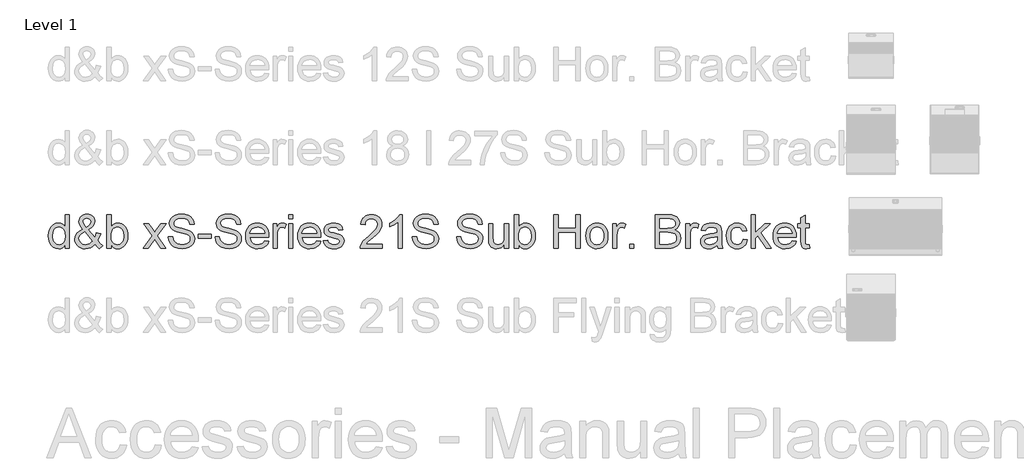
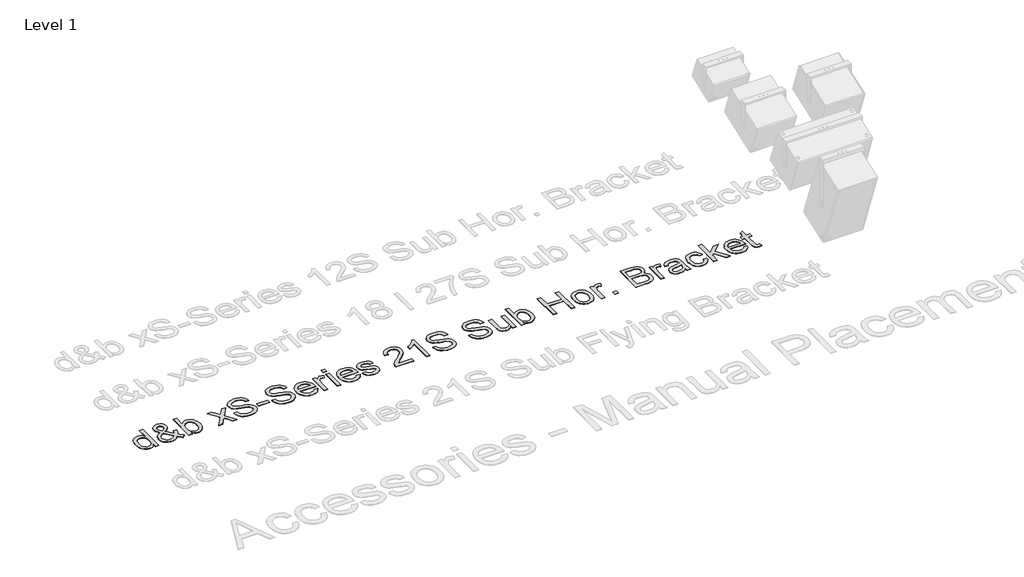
# One storey, part 14 of 55: 1 proxy.
"""IFC4 building model written with IfcOpenShell, lengths in millimetres."""

from ifc_helpers import new_model, si_unit, origin, origin_with_axes, place, context, project, spatial, polyline, outline, extrude, element, save

model = new_model("IFC4")

# Units and contexts
model_context = context("Model", 3, world=origin())
ifc_project = project(units=[si_unit("LENGTHUNIT", "METRE", prefix="MILLI")], contexts=[model_context])

# Site, building, storey
site = spatial("IfcSite", under=ifc_project)
building = spatial("IfcBuilding", under=site)
storey = spatial("IfcBuildingStorey", under=building, Name="Level 1", Elevation=0.0)

# Proxy
placement = place(None, origin())
element("IfcBuildingElementProxy", 1, Name="400mm Arial", ObjectType="400mm Arial", at=placement, inside=storey, context=model_context, shape_type="SweptSolid", body=[
    extrude(outline(polyline([(-20879.8211974, -22648.6945164), (-20879.8211974, -22601.3113154), (-20894.8491769, -22624.7883181), (-20913.0532043, -22641.5576057), (-20934.4332796, -22651.6191783), (-20958.9894028, -22654.9730358), (-20991.4611202, -22650.1169935), (-21021.1859854, -22635.5488665), (-21046.3491139, -22612.2864616), (-21065.1356211, -22581.3475858), (-21076.8342686, -22543.9830379), (-21080.7338177, -22501.4436165), (-21077.1408369, -22459.4314926), (-21066.3618945, -22421.4905962), (-21048.4092531, -22389.7791682), (-21023.2951755, -22366.4554497), (-20992.9203855, -22352.1080519), (-20959.1856065, -22347.325586), (-20934.6110892, -22350.7468885), (-20912.8815261, -22361.0107962), (-20894.4629008, -22376.7438829), (-20879.8211974, -22396.5727224), (-20879.8211974, -22246.8692758), (-20829.5930424, -22246.8692758), (-20829.5930424, -22648.6945164), (-20879.8211974, -22648.6945164)]), holes=[polyline([(-21030.5056627, -22501.2474128), (-21029.089317, -22525.6042665), (-21024.8402799, -22546.6808392), (-21017.7585515, -22564.4771307), (-21007.8441318, -22578.9931411), (-20983.1469871, -22598.3069458), (-20969.2717046, -22603.135397), (-20954.3786151, -22604.7448807), (-20939.415015, -22603.2089734), (-20925.6225058, -22598.6012514), (-20901.5507606, -22580.1703635), (-20892.0440767, -22566.2613584), (-20885.2535882, -22549.1088603), (-20879.8211974, -22505.0733855), (-20885.3516901, -22456.9298951), (-20892.2648059, -22438.3947739), (-20901.9431681, -22423.5507354), (-20913.6448812, -22412.1770504), (-20926.6280499, -22404.0529896), (-20940.8926743, -22399.1785532), (-20956.4387543, -22397.5537411), (-20971.6261493, -22399.1141738), (-20985.5014319, -22403.7954722), (-20998.064602, -22411.5976362), (-21009.3156597, -22422.5206658), (-21018.586286, -22436.8036843), (-21025.2081619, -22454.6858149), (-21030.5056627, -22501.2474128)])]), origin_with_axes(), (0.0, 0.0, 1.0), 5.0),
    extrude(outline(polyline([(-20523.809528, -22599.0549725), (-20549.3405384, -22623.5191252), (-20577.0788409, -22640.99352), (-20607.0734862, -22651.4781569), (-20639.3735254, -22654.9730358), (-20668.6814577, -22652.3855991), (-20694.8010793, -22644.623289), (-20717.7323904, -22631.6861055), (-20737.4753908, -22613.5740486), (-20750.308341, -22596.2038871), (-20759.4747341, -22577.8404442), (-20764.9745699, -22558.4837198), (-20766.8078485, -22538.1337141), (-20760.9094739, -22502.9396699), (-20743.2143499, -22471.3263438), (-20713.796053, -22443.3182613), (-20672.7281596, -22418.9399477), (-20694.6416638, -22390.5885086), (-20707.7995765, -22368.1231814), (-20714.3846642, -22348.9442668), (-20716.5796934, -22330.4520651), (-20714.8506481, -22312.8979626), (-20709.6635119, -22296.5333452), (-20701.018285, -22281.3582129), (-20688.9149674, -22267.3725657), (-20674.1935562, -22255.6555241), (-20657.6940487, -22247.2862088), (-20639.4164449, -22242.2646195), (-20619.3607448, -22240.5907564), (-20600.212487, -22242.1910431), (-20582.8913764, -22246.9919032), (-20567.397413, -22254.9933366), (-20553.7305969, -22266.1953433), (-20542.5715097, -22279.6414302), (-20534.6007332, -22294.3751041), (-20529.8182672, -22310.396365), (-20528.2241119, -22327.7052129), (-20532.9452642, -22355.68877), (-20547.108721, -22381.563137), (-20570.7144823, -22405.3283139), (-20603.7625482, -22426.9843007), (-20531.069066, -22517.5323224), (-20518.6837055, -22491.6579554), (-20509.3885538, -22461.9085647), (-20459.1603987, -22472.7978718), (-20474.6114425, -22519.3226815), (-20494.6732739, -22555.4977443), (-20466.1256311, -22588.8033276), (-20434.0463211, -22616.3209009), (-20471.7174374, -22654.9730358), (-20497.3465498, -22631.52669), (-20523.809528, -22599.0549725)]), holes=[polyline([(-20557.4584678, -22562.8553842), (-20647.1235727, -22450.9211558), (-20681.3733865, -22472.7733463), (-20702.305872, -22493.0068561), (-20713.0112381, -22512.3329235), (-20716.5796934, -22531.4627873), (-20711.6991256, -22555.1543878), (-20697.0574222, -22579.7289051), (-20686.2784798, -22590.6733944), (-20673.4639236, -22598.4908868), (-20658.6137537, -22603.1813823), (-20641.7279702, -22604.7448807), (-20619.0051256, -22601.8263502), (-20595.5710425, -22593.0707588), (-20574.1480476, -22579.6798541), (-20557.4584678, -22562.8553842)]), polyline([(-20629.1709314, -22395.2973981), (-20602.9041569, -22378.6323438), (-20587.8700461, -22364.1500559), (-20580.8067117, -22350.0601755), (-20578.452267, -22334.5723435), (-20581.5547385, -22317.0243723), (-20590.862153, -22303.0325938), (-20604.829406, -22293.8723321), (-20621.9113933, -22290.8189115), (-20639.3612626, -22293.8478066), (-20653.6473468, -22302.9344919), (-20663.1754905, -22316.3867102), (-20666.3515384, -22332.5122043), (-20662.0350563, -22350.9063041), (-20648.9875082, -22371.360543), (-20629.1709314, -22395.2973981)])]), origin_with_axes(), (0.0, 0.0, 1.0), 5.0),
    extrude(outline(polyline([(-20333.590011, -22648.6945164), (-20383.8181661, -22648.6945164), (-20383.8181661, -22246.8692758), (-20333.590011, -22246.8692758), (-20333.590011, -22395.8860093), (-20317.0721094, -22374.6408241), (-20298.4204923, -22359.4656918), (-20277.6351595, -22350.3606124), (-20254.7161112, -22347.325586), (-20228.8417442, -22350.0601755), (-20204.3898543, -22358.263944), (-20182.758393, -22371.4218567), (-20165.3453119, -22389.0188788), (-20151.6968898, -22410.883332), (-20141.3594058, -22436.8435381), (-20134.8478945, -22465.8203766), (-20132.6773907, -22496.734727), (-20134.9245365, -22532.4070178), (-20141.6659741, -22563.7873519), (-20152.9017034, -22590.8757295), (-20168.6317244, -22613.6721505), (-20187.5132678, -22631.7412878), (-20208.2035643, -22644.6478145), (-20230.702614, -22652.3917305), (-20255.0104168, -22654.9730358), (-20278.6836232, -22651.6437038), (-20299.671291, -22641.6557076), (-20317.9734203, -22625.0090473), (-20333.590011, -22601.7037229), (-20333.590011, -22648.6945164)]), holes=[polyline([(-20333.590011, -22499.0891717), (-20330.1564457, -22540.9786682), (-20319.8557498, -22569.3301073), (-20307.6849872, -22584.8240707), (-20293.5399244, -22595.8911874), (-20277.4205617, -22602.5314574), (-20259.3268989, -22604.7448807), (-20244.3050508, -22603.1139372), (-20230.3377977, -22598.2211067), (-20217.4251396, -22590.0663891), (-20205.5670767, -22578.6497845), (-20195.6526569, -22564.0019498), (-20188.5709285, -22546.1535416), (-20184.3218914, -22525.1045601), (-20182.9055458, -22500.8550053), (-20188.3379366, -22454.8942814), (-20195.1284251, -22437.1010555), (-20204.6351089, -22422.7659205), (-20216.0670419, -22411.735592), (-20228.6332778, -22403.8567859), (-20242.3338164, -22399.1295023), (-20257.1686579, -22397.5537411), (-20272.190506, -22399.1846846), (-20286.1577591, -22404.0775151), (-20299.0704171, -22412.2322327), (-20310.9284801, -22423.6488372), (-20320.8428999, -22438.1495192), (-20327.9246283, -22455.556469), (-20332.1736653, -22475.8696865), (-20333.590011, -22499.0891717)])]), origin_with_axes(), (0.0, 0.0, 1.0), 5.0),
    extrude(outline(polyline([(-19950.6003285, -22648.6945164), (-19843.2768878, -22500.2663941), (-19944.3218092, -22353.6041054), (-19884.0872638, -22353.6041054), (-19835.3306367, -22424.3355503), (-19812.4729021, -22457.5920827), (-19792.6563253, -22430.3197641), (-19737.1306695, -22353.6041054), (-19676.6999204, -22353.6041054), (-19782.8461387, -22500.364496), (-19680.623995, -22648.6945164), (-19740.9566422, -22648.6945164), (-19802.5646137, -22559.4218189), (-19813.7482263, -22543.0388074), (-19890.1695795, -22648.6945164), (-19950.6003285, -22648.6945164)])), origin_with_axes(), (0.0, 0.0, 1.0), 5.0),
    extrude(outline(polyline([(-19649.2313981, -22510.56709), (-19599.003243, -22510.56709), (-19593.2397584, -22538.4402825), (-19582.8164352, -22560.844296), (-19566.556051, -22578.6252591), (-19543.2813835, -22592.6293004), (-19514.8318425, -22601.7159856), (-19483.0468381, -22604.7448807), (-19455.063281, -22602.4517496), (-19430.5623402, -22595.5723563), (-19410.7089752, -22584.6830493), (-19396.6681457, -22570.3601769), (-19388.3172244, -22553.9158517), (-19385.533584, -22536.6621862), (-19387.6182486, -22519.849979), (-19393.8722425, -22505.3186402), (-19406.5764341, -22492.9210169), (-19428.0116917, -22482.5099565), (-19501.1466323, -22463.3310418), (-19549.1552327, -22450.639113), (-19579.8733793, -22438.5603208), (-19604.8770922, -22421.6622745), (-19622.5967416, -22401.1835101), (-19633.1549549, -22377.565486), (-19636.6743593, -22351.2496606), (-19632.3210891, -22321.8313637), (-19619.2612782, -22294.3996296), (-19597.8382834, -22271.1494875), (-19568.395461, -22254.2759667), (-19533.054264, -22244.012059), (-19493.9361452, -22240.5907564), (-19451.5561394, -22244.1714745), (-19414.4736342, -22254.9136288), (-19384.013005, -22272.59649), (-19361.4986269, -22296.999329), (-19347.249331, -22326.6015669), (-19341.5839483, -22359.8826247), (-19391.8121033, -22359.8826247), (-19401.0336787, -22329.9125049), (-19409.3968627, -22318.0544419), (-19420.2616443, -22308.2810436), (-19450.3053406, -22295.1844445), (-19491.9741079, -22290.8189115), (-19534.6238939, -22295.1353936), (-19550.9271976, -22300.5309962), (-19563.8827752, -22308.0848398), (-19580.805347, -22327.1411272), (-19586.4462043, -22349.7781326), (-19582.4485532, -22369.0796746), (-19570.4556002, -22384.6042948), (-19542.1041611, -22398.4857088), (-19488.4424407, -22412.6614283), (-19433.0639377, -22426.1259093), (-19399.5621507, -22437.8736077), (-19370.9286687, -22456.0960292), (-19350.9526764, -22478.5858819), (-19339.2172408, -22505.097911), (-19335.3054289, -22535.3868619), (-19339.805852, -22566.3502632), (-19353.3071212, -22595.4742545), (-19375.2574136, -22620.5392811), (-19405.1049061, -22639.3257883), (-19440.9979261, -22651.0612239), (-19481.0848008, -22654.9730358), (-19530.2951491, -22650.7546556), (-19570.7989567, -22638.099515), (-19603.0622077, -22616.958563), (-19627.5508858, -22587.2827487), (-19643.2717098, -22551.1322113), (-19649.2313981, -22510.56709)])), origin_with_axes(), (0.0, 0.0, 1.0), 5.0),
    extrude(outline(polyline([(-19291.3557932, -22529.4026481), (-19291.3557932, -22479.174493), (-19134.3928086, -22479.174493), (-19134.3928086, -22529.4026481), (-19291.3557932, -22529.4026481)])), origin_with_axes(), (0.0, 0.0, 1.0), 5.0),
    extrude(outline(polyline([(-19090.4431729, -22510.56709), (-19040.2150178, -22510.56709), (-19034.4515332, -22538.4402825), (-19024.02821, -22560.844296), (-19007.7678258, -22578.6252591), (-18984.4931583, -22592.6293004), (-18956.0436173, -22601.7159856), (-18924.2586129, -22604.7448807), (-18896.2750558, -22602.4517496), (-18871.774115, -22595.5723563), (-18851.9207499, -22584.6830493), (-18837.8799205, -22570.3601769), (-18829.5289992, -22553.9158517), (-18826.7453587, -22536.6621862), (-18828.8300234, -22519.849979), (-18835.0840173, -22505.3186402), (-18847.7882089, -22492.9210169), (-18869.2234665, -22482.5099565), (-18942.3584071, -22463.3310418), (-18990.3670075, -22450.639113), (-19021.0851541, -22438.5603208), (-19046.088867, -22421.6622745), (-19063.8085164, -22401.1835101), (-19074.3667297, -22377.565486), (-19077.8861341, -22351.2496606), (-19073.5328638, -22321.8313637), (-19060.473053, -22294.3996296), (-19039.0500582, -22271.1494875), (-19009.6072358, -22254.2759667), (-18974.2660388, -22244.012059), (-18935.14792, -22240.5907564), (-18892.7679141, -22244.1714745), (-18855.685409, -22254.9136288), (-18825.2247798, -22272.59649), (-18802.7104017, -22296.999329), (-18788.4611058, -22326.6015669), (-18782.7957231, -22359.8826247), (-18833.0238781, -22359.8826247), (-18842.2454535, -22329.9125049), (-18850.6086375, -22318.0544419), (-18861.4734191, -22308.2810436), (-18891.5171154, -22295.1844445), (-18933.1858827, -22290.8189115), (-18975.8356687, -22295.1353936), (-18992.1389724, -22300.5309962), (-19005.09455, -22308.0848398), (-19022.0171218, -22327.1411272), (-19027.657979, -22349.7781326), (-19023.660328, -22369.0796746), (-19011.667375, -22384.6042948), (-18983.3159359, -22398.4857088), (-18929.6542155, -22412.6614283), (-18874.2757125, -22426.1259093), (-18840.7739255, -22437.8736077), (-18812.1404435, -22456.0960292), (-18792.1644512, -22478.5858819), (-18780.4290156, -22505.097911), (-18776.5172037, -22535.3868619), (-18781.0176267, -22566.3502632), (-18794.518896, -22595.4742545), (-18816.4691883, -22620.5392811), (-18846.3166809, -22639.3257883), (-18882.2097009, -22651.0612239), (-18922.2965756, -22654.9730358), (-18971.5069238, -22650.7546556), (-19012.0107315, -22638.099515), (-19044.2739825, -22616.958563), (-19068.7626606, -22587.2827487), (-19084.4834846, -22551.1322113), (-19090.4431729, -22510.56709)])), origin_with_axes(), (0.0, 0.0, 1.0), 5.0),
    extrude(outline(polyline([(-18500.850962, -22560.795245), (-18451.6038255, -22567.0737644), (-18459.1546035, -22586.7983707), (-18469.3480004, -22604.180795), (-18482.1840164, -22619.2210372), (-18497.6626513, -22631.9190974), (-18515.6244897, -22642.0051955), (-18535.9101161, -22649.2095512), (-18583.4527326, -22654.9730358), (-18614.618469, -22652.4867667), (-18642.3874282, -22645.0279592), (-18666.7596104, -22632.5966135), (-18687.7350155, -22615.1927294), (-18704.602405, -22593.300685), (-18716.6505403, -22567.4048582), (-18723.8794215, -22537.5052491), (-18726.2890486, -22503.6018575), (-18723.8548961, -22468.5488348), (-18716.5524385, -22437.6528785), (-18704.3816758, -22410.9139888), (-18687.342608, -22388.3321657), (-18666.4223852, -22370.3917871), (-18642.6081574, -22357.5772309), (-18615.8999246, -22349.8884972), (-18586.2976867, -22347.325586), (-18557.6488763, -22349.8823658), (-18531.7407868, -22357.5527054), (-18508.5734182, -22370.3366048), (-18488.1467704, -22388.2340638), (-18471.472519, -22410.766836), (-18459.5623394, -22437.4566748), (-18452.4162316, -22468.3035801), (-18450.0341957, -22503.3075519), (-18450.3285013, -22516.8456094), (-18676.0608935, -22516.8456094), (-18673.1515601, -22536.8890467), (-18667.3666157, -22554.4431493), (-18658.7060604, -22569.507917), (-18647.1698942, -22582.0833498), (-18633.3957791, -22591.9977696), (-18618.0213774, -22599.079498), (-18582.4717139, -22604.7448807), (-18555.7389556, -22602.1206558), (-18533.2245775, -22594.2479811), (-18514.9285796, -22580.6363473), (-18500.850962, -22560.795245)]), holes=[polyline([(-18676.0608935, -22466.6174543), (-18500.2623508, -22466.6174543), (-18507.0559049, -22440.0808997), (-18520.3732332, -22421.0981887), (-18534.0707061, -22410.7974929), (-18549.65664, -22403.439853), (-18567.1310348, -22399.025269), (-18586.4938904, -22397.5537411), (-18620.3512967, -22402.2503679), (-18648.3471166, -22416.3402483), (-18667.8080741, -22438.3028034), (-18676.0608935, -22466.6174543)])]), origin_with_axes(), (0.0, 0.0, 1.0), 5.0),
    extrude(outline(polyline([(-18399.8060406, -22648.6945164), (-18399.8060406, -22353.6041054), (-18355.8564049, -22353.6041054), (-18355.8564049, -22397.2594355), (-18339.6205462, -22371.9491542), (-18324.6600117, -22357.0376707), (-18309.6504263, -22349.7536071), (-18293.2674148, -22347.325586), (-18268.2514391, -22351.2006097), (-18242.843056, -22362.8256807), (-18259.618475, -22407.8544369), (-18277.2768108, -22400.128915), (-18294.9351465, -22397.5537411), (-18309.9324692, -22400.0308132), (-18323.3356365, -22407.4620295), (-18334.1636299, -22419.2833042), (-18341.4354307, -22434.9305518), (-18347.5422718, -22462.9876853), (-18349.5778855, -22493.5954673), (-18349.5778855, -22648.6945164), (-18399.8060406, -22648.6945164)])), origin_with_axes(), (0.0, 0.0, 1.0), 5.0),
    extrude(outline(polyline([(-18211.4504591, -22297.0974309), (-18211.4504591, -22246.8692758), (-18161.222304, -22246.8692758), (-18161.222304, -22297.0974309), (-18211.4504591, -22297.0974309)])), origin_with_axes(), (0.0, 0.0, 1.0), 5.0),
    extrude(outline(polyline([(-18211.4504591, -22648.6945164), (-18211.4504591, -22353.6041054), (-18161.222304, -22353.6041054), (-18161.222304, -22648.6945164), (-18211.4504591, -22648.6945164)])), origin_with_axes(), (0.0, 0.0, 1.0), 5.0),
    extrude(outline(polyline([(-17879.2775429, -22560.795245), (-17830.0304065, -22567.0737644), (-17837.5811844, -22586.7983707), (-17847.7745814, -22604.180795), (-17860.6105973, -22619.2210372), (-17876.0892323, -22631.9190974), (-17894.0510707, -22642.0051955), (-17914.336697, -22649.2095512), (-17961.8793136, -22654.9730358), (-17993.0450499, -22652.4867667), (-18020.8140092, -22645.0279592), (-18045.1861914, -22632.5966135), (-18066.1615965, -22615.1927294), (-18083.0289859, -22593.300685), (-18095.0771213, -22567.4048582), (-18102.3060025, -22537.5052491), (-18104.7156295, -22503.6018575), (-18102.281477, -22468.5488348), (-18094.9790194, -22437.6528785), (-18082.8082567, -22410.9139888), (-18065.769189, -22388.3321657), (-18044.8489662, -22370.3917871), (-18021.0347384, -22357.5772309), (-17994.3265055, -22349.8884972), (-17964.7242676, -22347.325586), (-17936.0754573, -22349.8823658), (-17910.1673678, -22357.5527054), (-17886.9999991, -22370.3366048), (-17866.5733513, -22388.2340638), (-17849.8990999, -22410.766836), (-17837.9889203, -22437.4566748), (-17830.8428126, -22468.3035801), (-17828.4607766, -22503.3075519), (-17828.7550822, -22516.8456094), (-18054.4874745, -22516.8456094), (-18051.578141, -22536.8890467), (-18045.7931967, -22554.4431493), (-18037.1326413, -22569.507917), (-18025.5964751, -22582.0833498), (-18011.8223601, -22591.9977696), (-17996.4479584, -22599.079498), (-17960.8982949, -22604.7448807), (-17934.1655366, -22602.1206558), (-17911.6511585, -22594.2479811), (-17893.3551606, -22580.6363473), (-17879.2775429, -22560.795245)]), holes=[polyline([(-18054.4874745, -22466.6174543), (-17878.6889317, -22466.6174543), (-17885.4824859, -22440.0808997), (-17898.7998141, -22421.0981887), (-17912.4972871, -22410.7974929), (-17928.0832209, -22403.439853), (-17945.5576157, -22399.025269), (-17964.9204714, -22397.5537411), (-17998.7778777, -22402.2503679), (-18026.7736975, -22416.3402483), (-18046.234655, -22438.3028034), (-18054.4874745, -22466.6174543)])]), origin_with_axes(), (0.0, 0.0, 1.0), 5.0),
    extrude(outline(polyline([(-17797.0681797, -22560.795245), (-17746.8400246, -22554.5167257), (-17738.918299, -22576.0010342), (-17723.5898825, -22591.7954345), (-17700.7566734, -22601.5075192), (-17670.3205696, -22604.7448807), (-17640.2523479, -22601.7772993), (-17619.1113959, -22592.874555), (-17606.6034081, -22579.9741597), (-17602.4340788, -22565.0136253), (-17606.6279335, -22552.2113318), (-17619.2094978, -22542.4501962), (-17670.9091808, -22528.1273239), (-17746.545719, -22503.5528066), (-17765.6878455, -22491.2042343), (-17779.5569967, -22474.858011), (-17787.9814944, -22455.556469), (-17790.7896603, -22434.3419406), (-17788.5333174, -22414.880983), (-17781.7642887, -22396.9160789), (-17771.0957109, -22381.1584668), (-17757.1407205, -22368.3193852), (-17725.2085633, -22353.4569526), (-17704.3251287, -22348.8584276), (-17681.9946916, -22347.325586), (-17649.302245, -22349.7903953), (-17620.8772295, -22357.1848234), (-17598.0194949, -22368.785369), (-17582.0288908, -22383.8685308), (-17571.4338893, -22403.5502176), (-17564.7629625, -22428.946338), (-17614.9911176, -22435.2248574), (-17621.3309506, -22419.4181943), (-17633.8757267, -22407.5110804), (-17652.748073, -22400.0430759), (-17678.070617, -22397.5537411), (-17706.9125654, -22399.9327113), (-17726.140531, -22407.069622), (-17736.9562617, -22417.3703179), (-17740.5615053, -22429.2406436), (-17734.5772915, -22443.8578215), (-17715.8398352, -22454.9433323), (-17672.5769125, -22465.6364356), (-17598.8533607, -22489.2789852), (-17579.3801404, -22500.5852252), (-17564.6158097, -22516.0607944), (-17555.3083952, -22535.7547439), (-17552.2059237, -22559.7161245), (-17555.8479555, -22584.4868455), (-17566.7740507, -22607.7860386), (-17584.5672766, -22627.7865564), (-17608.8107, -22642.6612517), (-17638.0941069, -22651.8950898), (-17671.0072827, -22654.9730358), (-17698.040478, -22653.4892451), (-17721.6523707, -22649.037873), (-17741.8429609, -22641.6189194), (-17758.6122485, -22631.2323844), (-17772.3097214, -22617.9273189), (-17783.2848676, -22601.7527738), (-17791.5376871, -22582.7087492), (-17797.0681797, -22560.795245)])), origin_with_axes(), (0.0, 0.0, 1.0), 5.0),
    extrude(outline(polyline([(-17093.8740087, -22598.4663614), (-17093.8740087, -22648.6945164), (-17357.5718228, -22648.6945164), (-17356.4681768, -22631.0116552), (-17352.1762202, -22614.0645579), (-17339.778597, -22587.0007058), (-17321.6174891, -22560.7461941), (-17295.3629774, -22533.2654091), (-17258.6851425, -22502.522737), (-17204.4961246, -22454.3792466), (-17172.0121444, -22418.8418458), (-17155.7885485, -22389.9998974), (-17150.3806831, -22361.9427639), (-17155.4942429, -22336.7918982), (-17170.8349221, -22315.8839381), (-17194.4161579, -22301.7940577), (-17224.2513878, -22297.0974309), (-17255.582671, -22301.6836931), (-17279.9241964, -22315.4424797), (-17295.6327576, -22337.2946702), (-17301.0651483, -22366.1611441), (-17351.2933034, -22359.8826247), (-17346.9737557, -22333.9530755), (-17339.1164094, -22311.2976759), (-17327.7212646, -22291.9164261), (-17312.7883213, -22275.8093261), (-17294.6609359, -22263.1480541), (-17273.6824652, -22254.1042884), (-17249.8529089, -22248.678029), (-17223.1722672, -22246.8692758), (-17196.2525022, -22248.8803641), (-17172.2941873, -22254.9136288), (-17151.2973224, -22264.96907), (-17133.2619076, -22279.0466877), (-17118.7765541, -22296.1041495), (-17108.4298729, -22315.0991232), (-17102.2218643, -22336.0316087), (-17100.152528, -22358.9016061), (-17102.3843455, -22382.9243004), (-17109.0797978, -22406.5300617), (-17120.9623862, -22430.5404933), (-17138.7556121, -22455.7771982), (-17167.1193139, -22485.9067336), (-17210.7133303, -22524.5956567), (-17268.495329, -22572.9108254), (-17291.1568599, -22598.4663614), (-17093.8740087, -22598.4663614)])), origin_with_axes(), (0.0, 0.0, 1.0), 5.0),
    extrude(outline(polyline([(-16855.2902721, -22648.6945164), (-16905.5184271, -22648.6945164), (-16905.5184271, -22335.5533621), (-16926.4877009, -22352.5127221), (-16953.0978318, -22369.4475566), (-17005.9747373, -22394.8068888), (-17005.9747373, -22347.325586), (-16966.5255247, -22325.8658029), (-16932.3492873, -22300.3347925), (-16905.4080625, -22273.1851012), (-16887.6638876, -22246.8692758), (-16855.2902721, -22246.8692758), (-16855.2902721, -22648.6945164)])), origin_with_axes(), (0.0, 0.0, 1.0), 5.0),
    extrude(outline(polyline([(-16735.9984038, -22510.56709), (-16685.7702487, -22510.56709), (-16680.0067641, -22538.4402825), (-16669.5834409, -22560.844296), (-16653.3230567, -22578.6252591), (-16630.0483891, -22592.6293004), (-16601.5988482, -22601.7159856), (-16569.8138438, -22604.7448807), (-16541.8302867, -22602.4517496), (-16517.3293458, -22595.5723563), (-16497.4759808, -22584.6830493), (-16483.4351513, -22570.3601769), (-16475.08423, -22553.9158517), (-16472.3005896, -22536.6621862), (-16474.3852543, -22519.849979), (-16480.6392482, -22505.3186402), (-16493.3434397, -22492.9210169), (-16514.7786973, -22482.5099565), (-16587.913638, -22463.3310418), (-16635.9222383, -22450.639113), (-16666.6403849, -22438.5603208), (-16691.6440979, -22421.6622745), (-16709.3637473, -22401.1835101), (-16719.9219606, -22377.565486), (-16723.441365, -22351.2496606), (-16719.0880947, -22321.8313637), (-16706.0282839, -22294.3996296), (-16684.605289, -22271.1494875), (-16655.1624667, -22254.2759667), (-16619.8212697, -22244.012059), (-16580.7031509, -22240.5907564), (-16538.323145, -22244.1714745), (-16501.2406399, -22254.9136288), (-16470.7800107, -22272.59649), (-16448.2656326, -22296.999329), (-16434.0163367, -22326.6015669), (-16428.3509539, -22359.8826247), (-16478.579109, -22359.8826247), (-16487.8006843, -22329.9125049), (-16496.1638684, -22318.0544419), (-16507.02865, -22308.2810436), (-16537.0723462, -22295.1844445), (-16578.7411136, -22290.8189115), (-16621.3908995, -22295.1353936), (-16637.6942033, -22300.5309962), (-16650.6497809, -22308.0848398), (-16667.5723527, -22327.1411272), (-16673.2132099, -22349.7781326), (-16669.2155589, -22369.0796746), (-16657.2226059, -22384.6042948), (-16628.8711668, -22398.4857088), (-16575.2094464, -22412.6614283), (-16519.8309434, -22426.1259093), (-16486.3291564, -22437.8736077), (-16457.6956744, -22456.0960292), (-16437.7196821, -22478.5858819), (-16425.9842464, -22505.097911), (-16422.0724345, -22535.3868619), (-16426.5728576, -22566.3502632), (-16440.0741268, -22595.4742545), (-16462.0244192, -22620.5392811), (-16491.8719118, -22639.3257883), (-16527.7649318, -22651.0612239), (-16567.8518065, -22654.9730358), (-16617.0621547, -22650.7546556), (-16657.5659624, -22638.099515), (-16689.8292134, -22616.958563), (-16714.3178915, -22587.2827487), (-16730.0387154, -22551.1322113), (-16735.9984038, -22510.56709)])), origin_with_axes(), (0.0, 0.0, 1.0), 5.0),
    extrude(outline(polyline([(-16208.6027755, -22510.56709), (-16158.3746204, -22510.56709), (-16152.6111358, -22538.4402825), (-16142.1878126, -22560.844296), (-16125.9274284, -22578.6252591), (-16102.6527609, -22592.6293004), (-16074.2032199, -22601.7159856), (-16042.4182155, -22604.7448807), (-16014.4346584, -22602.4517496), (-15989.9337175, -22595.5723563), (-15970.0803525, -22584.6830493), (-15956.0395231, -22570.3601769), (-15947.6886018, -22553.9158517), (-15944.9049613, -22536.6621862), (-15946.989626, -22519.849979), (-15953.2436199, -22505.3186402), (-15965.9478115, -22492.9210169), (-15987.383069, -22482.5099565), (-16060.5180097, -22463.3310418), (-16108.5266101, -22450.639113), (-16139.2447566, -22438.5603208), (-16164.2484696, -22421.6622745), (-16181.968119, -22401.1835101), (-16192.5263323, -22377.565486), (-16196.0457367, -22351.2496606), (-16191.6924664, -22321.8313637), (-16178.6326556, -22294.3996296), (-16157.2096607, -22271.1494875), (-16127.7668384, -22254.2759667), (-16092.4256414, -22244.012059), (-16053.3075226, -22240.5907564), (-16010.9275167, -22244.1714745), (-15973.8450116, -22254.9136288), (-15943.3843824, -22272.59649), (-15920.8700043, -22296.999329), (-15906.6207084, -22326.6015669), (-15900.9553256, -22359.8826247), (-15951.1834807, -22359.8826247), (-15960.4050561, -22329.9125049), (-15968.7682401, -22318.0544419), (-15979.6330217, -22308.2810436), (-16009.6767179, -22295.1844445), (-16051.3454853, -22290.8189115), (-16093.9952712, -22295.1353936), (-16110.298575, -22300.5309962), (-16123.2541526, -22308.0848398), (-16140.1767244, -22327.1411272), (-16145.8175816, -22349.7781326), (-16141.8199306, -22369.0796746), (-16129.8269776, -22384.6042948), (-16101.4755385, -22398.4857088), (-16047.8138181, -22412.6614283), (-15992.4353151, -22426.1259093), (-15958.9335281, -22437.8736077), (-15930.3000461, -22456.0960292), (-15910.3240538, -22478.5858819), (-15898.5886181, -22505.097911), (-15894.6768063, -22535.3868619), (-15899.1772293, -22566.3502632), (-15912.6784986, -22595.4742545), (-15934.6287909, -22620.5392811), (-15964.4762835, -22639.3257883), (-16000.3693035, -22651.0612239), (-16040.4561782, -22654.9730358), (-16089.6665264, -22650.7546556), (-16130.1703341, -22638.099515), (-16162.4335851, -22616.958563), (-16186.9222632, -22587.2827487), (-16202.6430872, -22551.1322113), (-16208.6027755, -22510.56709)])), origin_with_axes(), (0.0, 0.0, 1.0), 5.0),
    extrude(outline(polyline([(-15637.2575115, -22648.6945164), (-15637.2575115, -22597.975852), (-15655.4308821, -22622.9121199), (-15676.5963595, -22640.7237399), (-15700.7539439, -22651.4107118), (-15727.9036351, -22654.9730358), (-15752.3677878, -22652.4714382), (-15775.1396833, -22644.9666455), (-15794.2450216, -22633.684931), (-15807.7095026, -22619.852568), (-15816.7716624, -22603.0526236), (-15822.6700371, -22582.8681648), (-15825.613093, -22536.1716768), (-15825.613093, -22353.6041054), (-15775.384938, -22353.6041054), (-15775.384938, -22512.5291273), (-15772.3437801, -22563.738301), (-15765.0229284, -22580.8202883), (-15752.4781524, -22593.8065227), (-15735.5433179, -22602.0102912), (-15715.0522907, -22604.7448807), (-15693.3840412, -22601.9489776), (-15673.1137433, -22593.5612681), (-15656.399638, -22580.3543045), (-15645.3999663, -22563.1006389), (-15639.2931252, -22539.4703521), (-15637.2575115, -22507.1335247), (-15637.2575115, -22353.6041054), (-15587.0293564, -22353.6041054), (-15587.0293564, -22648.6945164), (-15637.2575115, -22648.6945164)])), origin_with_axes(), (0.0, 0.0, 1.0), 5.0),
    extrude(outline(polyline([(-15467.7374881, -22648.6945164), (-15517.9656432, -22648.6945164), (-15517.9656432, -22246.8692758), (-15467.7374881, -22246.8692758), (-15467.7374881, -22395.8860093), (-15451.2195865, -22374.6408241), (-15432.5679694, -22359.4656918), (-15411.7826367, -22350.3606124), (-15388.8635884, -22347.325586), (-15362.9892214, -22350.0601755), (-15338.5373314, -22358.263944), (-15316.9058701, -22371.4218567), (-15299.492789, -22389.0188788), (-15285.844367, -22410.883332), (-15275.5068829, -22436.8435381), (-15268.9953716, -22465.8203766), (-15266.8248678, -22496.734727), (-15269.0720137, -22532.4070178), (-15275.8134512, -22563.7873519), (-15287.0491805, -22590.8757295), (-15302.7792015, -22613.6721505), (-15321.6607449, -22631.7412878), (-15342.3510414, -22644.6478145), (-15364.8500911, -22652.3917305), (-15389.1578939, -22654.9730358), (-15412.8311003, -22651.6437038), (-15433.8187682, -22641.6557076), (-15452.1208974, -22625.0090473), (-15467.7374881, -22601.7037229), (-15467.7374881, -22648.6945164)]), holes=[polyline([(-15467.7374881, -22499.0891717), (-15464.3039228, -22540.9786682), (-15454.003227, -22569.3301073), (-15441.8324643, -22584.8240707), (-15427.6874016, -22595.8911874), (-15411.5680388, -22602.5314574), (-15393.474376, -22604.7448807), (-15378.4525279, -22603.1139372), (-15364.4852748, -22598.2211067), (-15351.5726168, -22590.0663891), (-15339.7145538, -22578.6497845), (-15329.800134, -22564.0019498), (-15322.7184056, -22546.1535416), (-15318.4693686, -22525.1045601), (-15317.0530229, -22500.8550053), (-15322.4854137, -22454.8942814), (-15329.2759022, -22437.1010555), (-15338.7825861, -22422.7659205), (-15350.2145191, -22411.735592), (-15362.7807549, -22403.8567859), (-15376.4812935, -22399.1295023), (-15391.316135, -22397.5537411), (-15406.3379831, -22399.1846846), (-15420.3052362, -22404.0775151), (-15433.2178942, -22412.2322327), (-15445.0759572, -22423.6488372), (-15454.990377, -22438.1495192), (-15462.0721054, -22455.556469), (-15466.3211424, -22475.8696865), (-15467.7374881, -22499.0891717)])]), origin_with_axes(), (0.0, 0.0, 1.0), 5.0),
    extrude(outline(polyline([(-15047.0766894, -22648.6945164), (-15047.0766894, -22246.8692758), (-14996.8485343, -22246.8692758), (-14996.8485343, -22410.1107798), (-14783.3788752, -22410.1107798), (-14783.3788752, -22246.8692758), (-14733.1507201, -22246.8692758), (-14733.1507201, -22648.6945164), (-14783.3788752, -22648.6945164), (-14783.3788752, -22460.3389349), (-14996.8485343, -22460.3389349), (-14996.8485343, -22648.6945164), (-15047.0766894, -22648.6945164)])), origin_with_axes(), (0.0, 0.0, 1.0), 5.0),
    extrude(outline(polyline([(-14664.0870069, -22501.1493109), (-14661.3708115, -22462.932503), (-14653.2222253, -22430.000933), (-14639.6412483, -22402.3546011), (-14620.6278806, -22379.9935072), (-14601.4857541, -22365.7012916), (-14580.3570648, -22355.4925663), (-14557.2418128, -22349.3673311), (-14532.139998, -22347.325586), (-14504.4292867, -22349.8118551), (-14479.3734571, -22357.2706626), (-14456.9725093, -22369.7020083), (-14437.2264432, -22387.1058924), (-14421.1101462, -22408.8937036), (-14409.5985054, -22434.4768306), (-14402.6915209, -22463.8552736), (-14400.3891928, -22497.0290325), (-14404.4604202, -22547.7722224), (-14416.6741024, -22586.3998319), (-14436.6746202, -22615.3276195), (-14464.1063543, -22636.9713435), (-14496.6884364, -22650.4726127), (-14532.139998, -22654.9730358), (-14560.2553795, -22652.4959637), (-14585.544201, -22645.0647474), (-14608.0064624, -22632.6793869), (-14627.6421639, -22615.3398822), (-14643.5867827, -22593.3405389), (-14654.9757962, -22566.9756626), (-14661.8092042, -22536.2452532), (-14664.0870069, -22501.1493109)]), holes=[polyline([(-14613.8588518, -22501.051209), (-14612.405718, -22525.4141942), (-14608.0463163, -22546.5091609), (-14600.7806469, -22564.3361092), (-14590.6087098, -22578.8950392), (-14578.235612, -22590.2043449), (-14564.3664608, -22598.2824204), (-14549.0012561, -22603.1292656), (-14532.139998, -22604.7448807), (-14515.364579, -22603.1200686), (-14500.060688, -22598.2456322), (-14486.228325, -22590.1215714), (-14473.8674899, -22578.7478864), (-14463.6955528, -22564.0448693), (-14456.4298834, -22545.9328124), (-14452.0704817, -22524.4117157), (-14450.6173479, -22499.4815792), (-14452.0796788, -22475.8911462), (-14456.4666716, -22455.3480025), (-14463.7783262, -22437.8521479), (-14474.0146427, -22423.4035826), (-14486.421463, -22412.0942769), (-14500.244629, -22404.0162014), (-14515.4841407, -22399.1693561), (-14532.139998, -22397.5537411), (-14549.0012561, -22399.1632248), (-14564.3664608, -22403.991676), (-14578.235612, -22412.0390946), (-14590.6087098, -22423.3054807), (-14600.7806469, -22437.8214911), (-14608.0463163, -22455.6177826), (-14612.405718, -22476.6943553), (-14613.8588518, -22501.051209)])]), origin_with_axes(), (0.0, 0.0, 1.0), 5.0),
    extrude(outline(polyline([(-14343.8825183, -22648.6945164), (-14343.8825183, -22353.6041054), (-14299.9328826, -22353.6041054), (-14299.9328826, -22397.2594355), (-14283.6970239, -22371.9491542), (-14268.7364894, -22357.0376707), (-14253.726904, -22349.7536071), (-14237.3438925, -22347.325586), (-14212.3279168, -22351.2006097), (-14186.9195337, -22362.8256807), (-14203.6949527, -22407.8544369), (-14221.3532885, -22400.128915), (-14239.0116242, -22397.5537411), (-14254.0089469, -22400.0308132), (-14267.4121143, -22407.4620295), (-14278.2401076, -22419.2833042), (-14285.5119084, -22434.9305518), (-14291.6187495, -22462.9876853), (-14293.6543632, -22493.5954673), (-14293.6543632, -22648.6945164), (-14343.8825183, -22648.6945164)])), origin_with_axes(), (0.0, 0.0, 1.0), 5.0),
    extrude(outline(polyline([(-14142.969898, -22648.6945164), (-14142.969898, -22598.4663614), (-14092.7417429, -22598.4663614), (-14092.7417429, -22648.6945164), (-14142.969898, -22648.6945164)])), origin_with_axes(), (0.0, 0.0, 1.0), 5.0),
    extrude(outline(polyline([(-13835.3224482, -22648.6945164), (-13835.3224482, -22246.8692758), (-13681.9892326, -22246.8692758), (-13639.8176932, -22249.8245945), (-13606.8922546, -22258.6905506), (-13581.6555498, -22273.6878733), (-13562.5502115, -22295.0372917), (-13550.5204703, -22320.1513693), (-13546.5105565, -22346.4426692), (-13549.8828081, -22370.6370417), (-13559.999563, -22393.3844118), (-13576.9343975, -22413.2868277), (-13600.7608881, -22428.946338), (-13572.2990844, -22443.8087706), (-13551.268497, -22466.4212506), (-13538.2822625, -22495.2877244), (-13533.9535177, -22528.9121388), (-13536.9088364, -22556.9324841), (-13545.7747925, -22582.9172157), (-13559.0062816, -22605.0146609), (-13575.0581993, -22621.3731469), (-13594.7153606, -22633.2189472), (-13618.7625804, -22641.7783349), (-13647.9846735, -22646.965471), (-13683.166455, -22648.6945164), (-13835.3224482, -22648.6945164)]), holes=[polyline([(-13785.0942931, -22598.4663614), (-13682.0873345, -22598.4663614), (-13644.8086256, -22596.504324), (-13613.2688759, -22585.5659661), (-13601.6928558, -22576.1359242), (-13592.3731786, -22563.2477917), (-13586.2295493, -22547.4779168), (-13584.1816728, -22529.4026481), (-13586.5851685, -22508.4088489), (-13593.7956556, -22490.3581057), (-13606.3894826, -22476.2436998), (-13624.9429979, -22467.0589127), (-13651.2220351, -22462.0189293), (-13686.9924277, -22460.3389349), (-13785.0942931, -22460.3389349), (-13785.0942931, -22598.4663614)]), polyline([(-13785.0942931, -22410.1107798), (-13693.369049, -22410.1107798), (-13639.8054305, -22405.7942977), (-13621.0557115, -22398.3508187), (-13607.5789677, -22387.2039943), (-13599.4487756, -22372.5255026), (-13596.7387116, -22354.4870222), (-13599.2648346, -22336.9758392), (-13606.8432037, -22321.7209991), (-13619.1304624, -22309.8138852), (-13635.783254, -22302.3458807), (-13661.3387899, -22298.4095434), (-13700.3342814, -22297.0974309), (-13785.0942931, -22297.0974309), (-13785.0942931, -22410.1107798)])]), origin_with_axes(), (0.0, 0.0, 1.0), 5.0),
    extrude(outline(polyline([(-13471.1683239, -22648.6945164), (-13471.1683239, -22353.6041054), (-13427.2186882, -22353.6041054), (-13427.2186882, -22397.2594355), (-13410.9828295, -22371.9491542), (-13396.022295, -22357.0376707), (-13381.0127096, -22349.7536071), (-13364.6296981, -22347.325586), (-13339.6137224, -22351.2006097), (-13314.2053393, -22362.8256807), (-13330.9807583, -22407.8544369), (-13348.639094, -22400.128915), (-13366.2974298, -22397.5537411), (-13381.2947525, -22400.0308132), (-13394.6979198, -22407.4620295), (-13405.5259132, -22419.2833042), (-13412.797714, -22434.9305518), (-13418.9045551, -22462.9876853), (-13420.9401688, -22493.5954673), (-13420.9401688, -22648.6945164), (-13471.1683239, -22648.6945164)])), origin_with_axes(), (0.0, 0.0, 1.0), 5.0),
    extrude(outline(polyline([(-13094.4571608, -22611.0234001), (-13118.4553297, -22631.6002664), (-13143.164737, -22645.0647474), (-13169.1494686, -22652.4959637), (-13196.9736102, -22654.9730358), (-13219.3377698, -22653.4831137), (-13238.9489458, -22649.0133475), (-13255.8071382, -22641.5637371), (-13269.9123471, -22631.1342825), (-13281.0499745, -22618.3871714), (-13289.0054226, -22603.9845913), (-13293.7786915, -22587.9265422), (-13295.3697811, -22570.2130241), (-13292.9662854, -22549.3909032), (-13285.7557983, -22530.4817686), (-13274.6334993, -22514.2949609), (-13260.494568, -22501.6398202), (-13243.8785645, -22492.0748883), (-13225.3250493, -22485.1587068), (-13181.8659229, -22477.6048632), (-13130.5095964, -22469.6586121), (-13094.7514664, -22460.3389349), (-13094.4571608, -22449.1553222), (-13097.9152516, -22426.739046), (-13108.2895239, -22412.0728171), (-13131.490615, -22401.1835101), (-13163.8151797, -22397.5537411), (-13193.7362486, -22399.9694995), (-13214.6319459, -22407.2167748), (-13228.8812419, -22420.6199422), (-13238.8631067, -22441.5033767), (-13289.0912617, -22435.2248574), (-13280.3724585, -22407.7563351), (-13267.3616986, -22386.1739247), (-13248.8449715, -22369.6682858), (-13223.6082666, -22357.4300781), (-13192.7429672, -22349.851709), (-13157.3404565, -22347.325586), (-13123.3849484, -22349.5574034), (-13096.4682491, -22356.2528557), (-13076.1734257, -22366.3205597), (-13062.0835453, -22378.669132), (-13052.7393426, -22393.9362348), (-13046.6815524, -22412.7595302), (-13044.2290058, -22456.7091659), (-13044.2290058, -22519.2000541), (-13041.6783573, -22606.4616634), (-13031.671967, -22648.6945164), (-13081.9001221, -22648.6945164), (-13089.944475, -22631.2323844), (-13094.4571608, -22611.0234001)]), holes=[polyline([(-13094.4571608, -22510.56709), (-13128.2042025, -22518.930274), (-13175.4893016, -22525.9690828), (-13218.7031733, -22534.1115377), (-13229.9480997, -22539.6788185), (-13238.2744955, -22547.3552895), (-13243.4248434, -22556.5523394), (-13245.1416261, -22566.681357), (-13241.4014924, -22581.617366), (-13230.1810916, -22593.8555737), (-13211.7256782, -22602.022554), (-13186.2805068, -22604.7448807), (-13159.3024939, -22601.7405111), (-13135.4637406, -22592.7274022), (-13116.1376731, -22579.4468622), (-13102.6977175, -22563.6401991), (-13096.7380292, -22547.3552895), (-13094.7514664, -22524.7918605), (-13094.4571608, -22510.56709)])]), origin_with_axes(), (0.0, 0.0, 1.0), 5.0),
    extrude(outline(polyline([(-12786.809711, -22541.9596869), (-12736.5815559, -22548.2382063), (-12742.0446036, -22571.9390038), (-12750.5855972, -22592.9113432), (-12762.2045369, -22611.1552245), (-12776.9014226, -22626.6706476), (-12794.0569863, -22639.0529425), (-12813.05196, -22647.8974388), (-12833.8863437, -22653.2041366), (-12856.5601373, -22654.9730358), (-12884.7307011, -22652.5051608), (-12909.9888657, -22645.1015356), (-12932.3346312, -22632.7621604), (-12951.7679976, -22615.487035), (-12967.4980186, -22593.601122), (-12978.7337479, -22567.4293837), (-12985.4751854, -22536.9718202), (-12987.7223313, -22502.2284314), (-12983.8840958, -22457.530769), (-12972.3693894, -22418.7927949), (-12952.994271, -22387.5105626), (-12925.5747996, -22365.1801255), (-12892.7719883, -22351.7892209), (-12857.2468503, -22347.325586), (-12834.9623985, -22348.8584276), (-12814.8055308, -22353.4569526), (-12796.7762474, -22361.1211608), (-12780.8745481, -22371.8510523), (-12767.3702132, -22385.4013725), (-12756.5330228, -22401.5268666), (-12748.3629768, -22420.2275347), (-12742.8600753, -22441.5033767), (-12793.0882304, -22447.7818961), (-12802.1994411, -22425.8683919), (-12816.3874234, -22410.1598308), (-12834.8673623, -22400.7052635), (-12856.8544429, -22397.5537411), (-12873.9211018, -22399.1049768), (-12889.3138976, -22403.758684), (-12903.0328303, -22411.5148628), (-12915.0779, -22422.373513), (-12924.8850208, -22436.5860207), (-12931.8901072, -22454.403772), (-12936.093159, -22475.8267669), (-12937.4941762, -22500.8550053), (-12932.0127345, -22547.9316379), (-12925.1609323, -22565.8689509), (-12915.5684093, -22580.0722616), (-12903.762463, -22590.8665325), (-12890.2703908, -22598.576726), (-12875.0921928, -22603.202842), (-12858.227869, -22604.7448807), (-12832.2186119, -22600.8943825), (-12810.893719, -22589.3428879), (-12795.3813615, -22569.7960912), (-12786.809711, -22541.9596869)])), origin_with_axes(), (0.0, 0.0, 1.0), 5.0),
    extrude(outline(polyline([(-12692.6319202, -22648.6945164), (-12692.6319202, -22246.8692758), (-12642.4037652, -22246.8692758), (-12642.4037652, -22462.7914815), (-12529.7828237, -22353.6041054), (-12460.326703, -22353.6041054), (-12574.4191725, -22464.1649076), (-12454.0481836, -22648.6945164), (-12512.7130991, -22648.6945164), (-12610.422557, -22499.0891717), (-12642.4037652, -22530.187463), (-12642.4037652, -22648.6945164), (-12692.6319202, -22648.6945164)])), origin_with_axes(), (0.0, 0.0, 1.0), 5.0),
    extrude(outline(polyline([(-12203.4960194, -22560.795245), (-12154.248883, -22567.0737644), (-12161.799661, -22586.7983707), (-12171.9930579, -22604.180795), (-12184.8290739, -22619.2210372), (-12200.3077088, -22631.9190974), (-12218.2695472, -22642.0051955), (-12238.5551736, -22649.2095512), (-12286.0977901, -22654.9730358), (-12317.2635265, -22652.4867667), (-12345.0324857, -22645.0279592), (-12369.4046679, -22632.5966135), (-12390.380073, -22615.1927294), (-12407.2474625, -22593.300685), (-12419.2955978, -22567.4048582), (-12426.524479, -22537.5052491), (-12428.9341061, -22503.6018575), (-12426.4999536, -22468.5488348), (-12419.197496, -22437.6528785), (-12407.0267333, -22410.9139888), (-12389.9876655, -22388.3321657), (-12369.0674427, -22370.3917871), (-12345.2532149, -22357.5772309), (-12318.5449821, -22349.8884972), (-12288.9427442, -22347.325586), (-12260.2939338, -22349.8823658), (-12234.3858443, -22357.5527054), (-12211.2184757, -22370.3366048), (-12190.7918279, -22388.2340638), (-12174.1175765, -22410.766836), (-12162.2073969, -22437.4566748), (-12155.0612891, -22468.3035801), (-12152.6792532, -22503.3075519), (-12152.9735588, -22516.8456094), (-12378.705951, -22516.8456094), (-12375.7966176, -22536.8890467), (-12370.0116732, -22554.4431493), (-12361.3511179, -22569.507917), (-12349.8149517, -22582.0833498), (-12336.0408366, -22591.9977696), (-12320.6664349, -22599.079498), (-12285.1167714, -22604.7448807), (-12258.3840131, -22602.1206558), (-12235.869635, -22594.2479811), (-12217.5736371, -22580.6363473), (-12203.4960194, -22560.795245)]), holes=[polyline([(-12378.705951, -22466.6174543), (-12202.9074083, -22466.6174543), (-12209.7009624, -22440.0808997), (-12223.0182907, -22421.0981887), (-12236.7157636, -22410.7974929), (-12252.3016975, -22403.439853), (-12269.7760922, -22399.025269), (-12289.1389479, -22397.5537411), (-12322.9963542, -22402.2503679), (-12350.992174, -22416.3402483), (-12370.4531316, -22438.3028034), (-12378.705951, -22466.6174543)])]), origin_with_axes(), (0.0, 0.0, 1.0), 5.0),
    extrude(outline(polyline([(-11995.7162686, -22606.8050199), (-11989.4377492, -22650.1660444), (-12027.0107636, -22654.9730358), (-12051.119297, -22652.8883712), (-12069.0964639, -22646.6343773), (-12081.8006554, -22636.995869), (-12090.0902631, -22624.7576613), (-12094.6519998, -22603.7393366), (-12096.1725787, -22567.7604775), (-12096.1725787, -22403.8322604), (-12133.843695, -22403.8322604), (-12133.843695, -22353.6041054), (-12096.1725787, -22353.6041054), (-12096.1725787, -22281.8916418), (-12045.9444236, -22252.3629803), (-12045.9444236, -22353.6041054), (-11995.7162686, -22353.6041054), (-11995.7162686, -22403.8322604), (-12045.9444236, -22403.8322604), (-12045.9444236, -22566.2889495), (-12043.2956733, -22592.187842), (-12034.7117601, -22601.3603664), (-12017.5929846, -22604.7448807), (-11995.7162686, -22606.8050199)])), origin_with_axes(), (0.0, 0.0, 1.0), 5.0),
])

save(model, "model.ifc")
